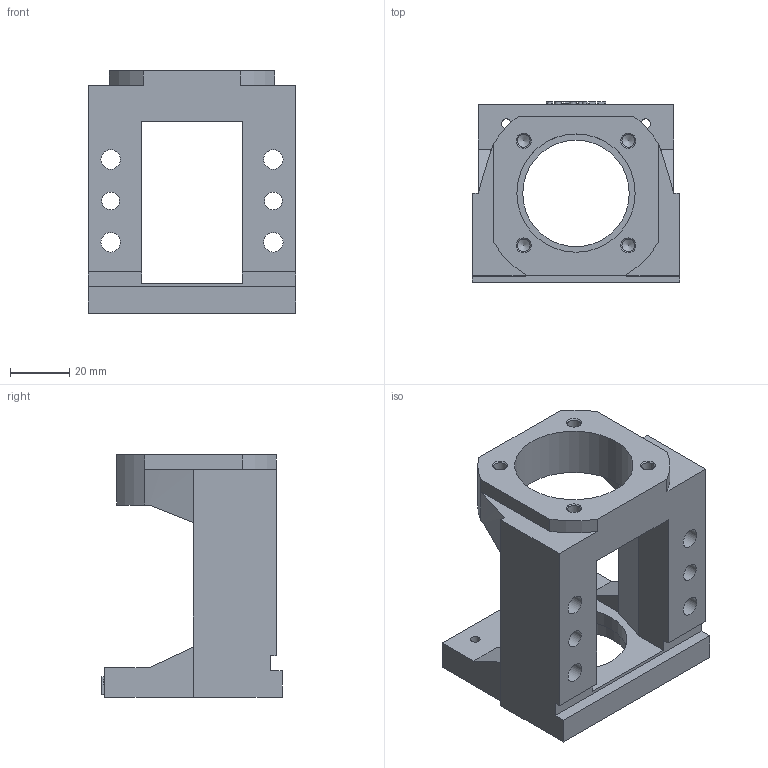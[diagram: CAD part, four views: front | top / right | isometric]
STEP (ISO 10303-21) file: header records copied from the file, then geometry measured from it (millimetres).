
FILE_DESCRIPTION(/* description */ (''),/* implementation_level */ '2;1');
FILE_NAME(/* name */ 'M60C-FK15-A.stp',/* time_stamp */ '2016-10-27T10:04:09+08:00',/* author */ (''),/* organization */ (''),/* preprocessor_version */ 'ST-DEVELOPER v15',/* originating_system */ 'SIEMENS PLM Software NX 8.5',/* authorisation */ '');
FILE_SCHEMA (('CONFIG_CONTROL_DESIGN'));
Length unit declared in the file: millimetre
Products named in the file (1): MBA15
Bounding box: 70 x 61 x 82 mm (x, y, z)
Volume: 109611.5 mm3; surface area: 32849.7 mm2
Topology: 1 solids, 1 shells, 186 faces, 503 edges, 335 vertices
Faces by surface type: plane 102, extrusion 41, cylinder 29, cone 14
Full cylindrical faces by diameter (mm): 3.3 x4, 4.3 x4, 6 x2, 6.6 x4, 8 x2, 11 x4, 36 x1, 38.1 x1, 40 x1
Entity records: 6120 total; most frequent: CARTESIAN_POINT 1879, ORIENTED_EDGE 890, DIRECTION 660, EDGE_CURVE 445, VERTEX_POINT 320, EDGE_LOOP 261, VECTOR 236, B_SPLINE_CURVE_WITH_KNOTS 223
